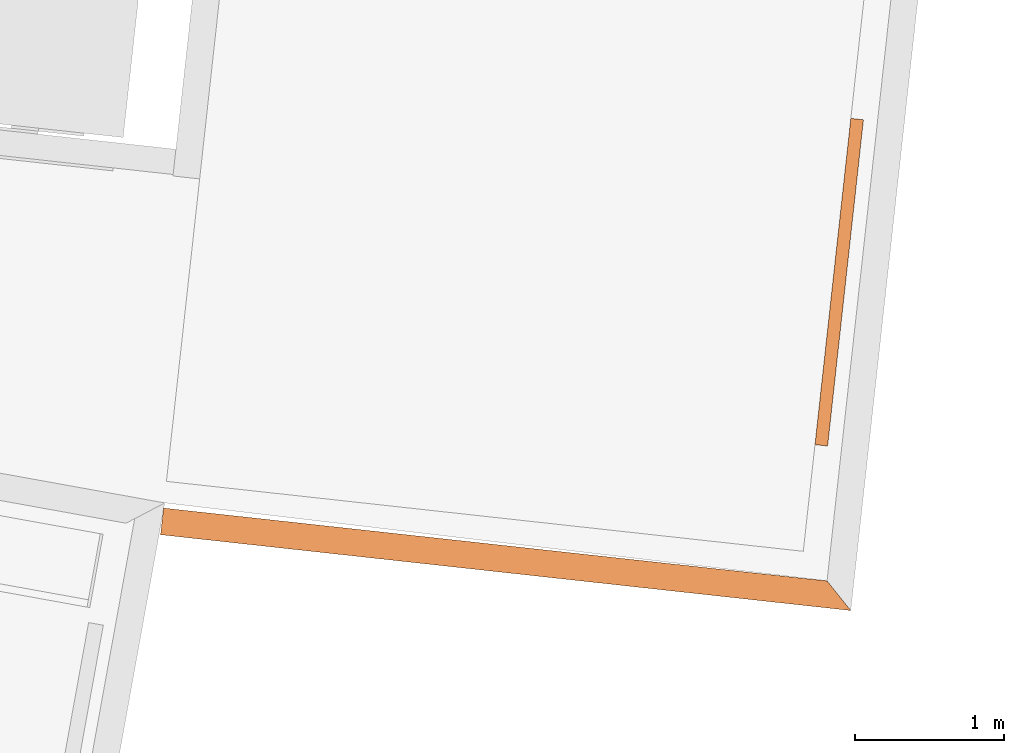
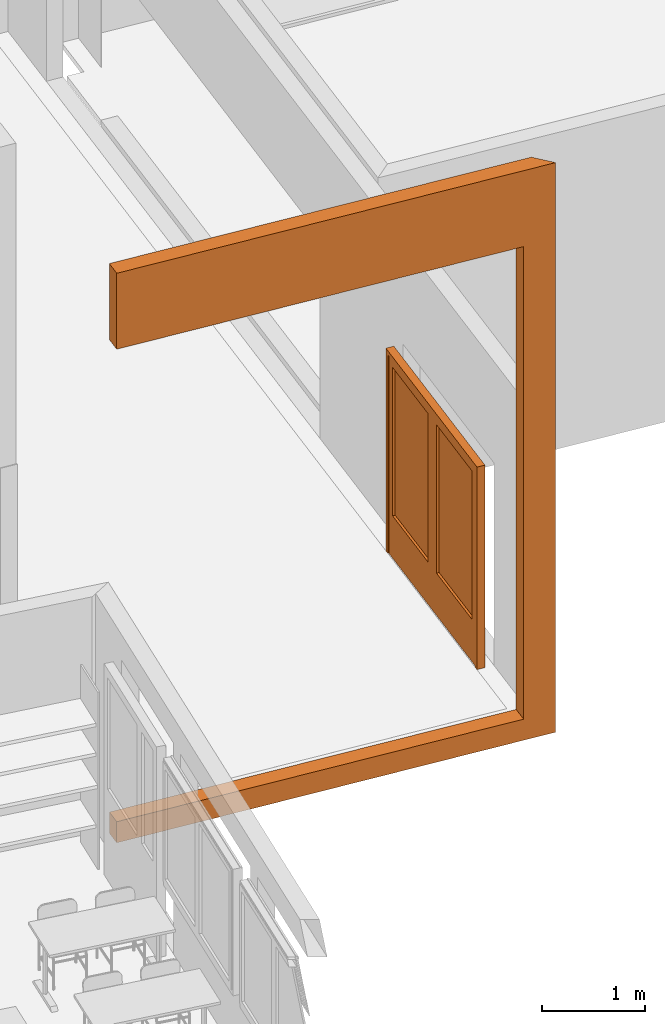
# One storey, part 68 of 79: 2 proxies.
"""IFC2X3 building model written with IfcOpenShell, lengths in metres."""

import ifcopenshell
import ifcopenshell.guid

model = None  # the IFC model being written
_history = None  # IfcOwnerHistory: only IFC2X3 demands one
_inside = {}  # id of a spatial element -> (the spatial element, [elements in it])
_under = {}  # id of a project, library or spatial element -> (it, [spatial elements below it])
_declared = {}  # id of a project -> (the project, [libraries it declares])
_typed = {}  # id of a type object -> (the type object, [elements of that type])
_made_of = {}  # id of a material, layer set ... -> (it, [elements and type objects made of it])


def new_model(schema):
    """Start an empty IFC model of exactly this schema.

    Asked for "IFC4X3", IfcOpenShell would pick the latest addendum, in which some entities
    have other attributes; the version numbers below select the first issue.
    IFC2X3 requires an IfcOwnerHistory on every rooted entity: one is made here for all.
    """
    global model, _history
    if schema == "IFC4X3":
        model = ifcopenshell.file(schema_version=(4, 3, 0, 0))
    else:
        model = ifcopenshell.file(schema=schema)
    _inside.clear()
    _under.clear()
    _declared.clear()
    _typed.clear()
    _made_of.clear()
    _history = None
    if model.schema == "IFC2X3":
        org = make("IfcOrganization", Name="unknown")
        user = make(
            "IfcPersonAndOrganization",
            ThePerson=make("IfcPerson", FamilyName="unknown"),
            TheOrganization=org,
        )
        app = make(
            "IfcApplication",
            ApplicationDeveloper=org,
            Version="unknown",
            ApplicationFullName="unknown",
            ApplicationIdentifier="unknown",
        )
        _history = make(
            "IfcOwnerHistory",
            OwningUser=user,
            OwningApplication=app,
            ChangeAction="ADDED",
            CreationDate=0,
        )
    return model


def make(cls, **values):
    """One entity of the class cls with the attributes given. An attribute that is None is left unset."""
    return model.create_entity(
        cls, **{name: value for name, value in values.items() if value is not None}
    )


def entity(cls, *values):
    """Any entity or typed value of the class cls, its attributes in the order of the schema. None: left unset."""
    e = model.create_entity(cls)
    for i, value in enumerate(values):
        if value is not None:
            e[i] = value
    return e


def rooted(cls, **values):
    """An entity with a GlobalId (a new one), such as an element, a storey or a relation."""
    return make(cls, GlobalId=ifcopenshell.guid.new(), OwnerHistory=_history, **values)


def si_unit(unit_type, name, prefix=None):
    """IfcSIUnit, for example si_unit("LENGTHUNIT", "METRE", prefix="MILLI")."""
    return make("IfcSIUnit", UnitType=unit_type, Prefix=prefix, Name=name)


def converted_unit(unit_type, name, factor, base, dimensions=None, offset=None):
    """IfcConversionBasedUnit, such as the inch: factor (a typed value) times the base unit."""
    return make(
        "IfcConversionBasedUnit"
        if offset is None
        else "IfcConversionBasedUnitWithOffset",
        ConversionOffset=offset,
        Dimensions=None
        if dimensions is None
        else entity("IfcDimensionalExponents", *dimensions),
        UnitType=unit_type,
        Name=name,
        ConversionFactor=make(
            "IfcMeasureWithUnit", ValueComponent=factor, UnitComponent=base
        ),
    )


def derived_unit(unit_type, elements):
    """IfcDerivedUnit: a product of units, each with its exponent."""
    return make(
        "IfcDerivedUnit",
        Elements=[
            make("IfcDerivedUnitElement", Unit=unit, Exponent=power)
            for unit, power in elements
        ],
        UnitType=unit_type,
    )


def money_unit(currency):
    """IfcMonetaryUnit."""
    return make("IfcMonetaryUnit", Currency=currency)


def assignment(units):
    """IfcUnitAssignment: the units of a project."""
    return None if units is None else make("IfcUnitAssignment", Units=units)


def point(xyz):
    """IfcCartesianPoint."""
    return None if xyz is None else make("IfcCartesianPoint", Coordinates=xyz)


def direction(xyz):
    """IfcDirection."""
    return None if xyz is None else make("IfcDirection", DirectionRatios=xyz)


def frame(location, z_axis=None, x_axis=None):
    """IfcAxis2Placement3D, a coordinate frame: its origin and axes. An axis left out is left unset."""
    return make(
        "IfcAxis2Placement3D",
        Location=point(location),
        Axis=direction(z_axis),
        RefDirection=direction(x_axis),
    )


def origin_with_axes():
    """The frame at (0, 0, 0) with the z axis (0, 0, 1) and the x axis (1, 0, 0) written out."""
    return frame((0.0, 0.0, 0.0), z_axis=(0.0, 0.0, 1.0), x_axis=(1.0, 0.0, 0.0))


def place(relative_to, where):
    """IfcLocalPlacement: puts the frame where relative to a parent placement (None: the world)."""
    return make(
        "IfcLocalPlacement", PlacementRelTo=relative_to, RelativePlacement=where
    )


def context(
    kind, dimensions, precision=None, world=None, true_north=None, identifier=None
):
    """IfcGeometricRepresentationContext, for example the 3D "Model" context."""
    return make(
        "IfcGeometricRepresentationContext",
        ContextIdentifier=identifier,
        ContextType=kind,
        CoordinateSpaceDimension=dimensions,
        Precision=precision,
        WorldCoordinateSystem=world,
        TrueNorth=true_north,
    )


def subcontext(parent, identifier, kind, view, scale=None):
    """IfcGeometricRepresentationSubContext, for example "Body" below "Model"."""
    return make(
        "IfcGeometricRepresentationSubContext",
        ContextIdentifier=identifier,
        ContextType=kind,
        ParentContext=parent,
        TargetScale=scale,
        TargetView=view,
    )


def project(units=None, contexts=None):
    """IfcProject with its units and contexts."""
    return rooted(
        "IfcProject",
        Name="project",
        RepresentationContexts=contexts,
        UnitsInContext=assignment(units),
    )


def spatial(cls, under=None, at=None, **own):
    """A site, building, storey or space (cls), placed at a placement, below another one or the project."""
    s = rooted(cls, ObjectPlacement=at, **own)
    if under is not None:
        _under.setdefault(under.id(), (under, []))[1].append(s)
    return s


def polyline(points):
    """IfcPolyline through the points."""
    return make("IfcPolyline", Points=[point(p) for p in points])


def outline(outer, holes=None, kind="AREA"):
    """IfcArbitraryClosedProfileDef: a profile drawn as a closed curve; with holes, ...WithVoids."""
    if holes is None:
        return make("IfcArbitraryClosedProfileDef", ProfileType=kind, OuterCurve=outer)
    return make(
        "IfcArbitraryProfileDefWithVoids",
        ProfileType=kind,
        OuterCurve=outer,
        InnerCurves=holes,
    )


def extrude(swept, where, along, depth):
    """IfcExtrudedAreaSolid: the profile swept, set in the frame where, extruded along a direction by depth."""
    return make(
        "IfcExtrudedAreaSolid",
        SweptArea=swept,
        Position=where,
        ExtrudedDirection=direction(along),
        Depth=depth,
    )


def boolean(op, a, b):
    """IfcBooleanResult of two solids."""
    return make("IfcBooleanResult", Operator=op, FirstOperand=a, SecondOperand=b)


def faces_of(points, faces, orient=None, outer=None):
    """IfcFace entities. A face is a list of loops; a loop is a list of indices into points, from 0.

    orient and outer hold one flag for each loop. By default every Orientation is true, the
    first loop of a face is its IfcFaceOuterBound and the others are IfcFaceBound.
    """
    made = []
    for i, loops in enumerate(faces):
        bounds = []
        for j, loop in enumerate(loops):
            is_outer = j == 0 if outer is None else outer[i][j]
            bounds.append(
                make(
                    "IfcFaceOuterBound" if is_outer else "IfcFaceBound",
                    Bound=make("IfcPolyLoop", Polygon=[points[k] for k in loop]),
                    Orientation=True if orient is None else orient[i][j],
                )
            )
        made.append(make("IfcFace", Bounds=bounds))
    return made


def open_shell(faces, orient=None, outer=None):
    """The faces of one IfcOpenShell. surface_model builds it on its shared points."""
    return ("IfcOpenShell", faces, orient, outer)


def faceted_brep(points, faces, orient=None, outer=None, voids=None):
    """IfcFacetedBrep: a solid bounded by flat faces; with voids (closed shells), ...WithVoids."""
    shared = [point(p) for p in points]
    hull = make("IfcClosedShell", CfsFaces=faces_of(shared, faces, orient, outer))
    if voids is None:
        return make("IfcFacetedBrep", Outer=hull)
    return make(
        "IfcFacetedBrepWithVoids",
        Outer=hull,
        Voids=[
            make(cls, CfsFaces=faces_of(shared, fs, o, b)) for cls, fs, o, b in voids
        ],
    )


def surface_model(cls, points, shells):
    """IfcFaceBasedSurfaceModel or IfcShellBasedSurfaceModel (cls): surfaces that need not close."""
    shared = [point(p) for p in points]
    made = [make(c, CfsFaces=faces_of(shared, fs, o, b)) for c, fs, o, b in shells]
    if cls == "IfcFaceBasedSurfaceModel":
        return make(cls, FbsmFaces=made)
    return make(cls, SbsmBoundary=made)


def shape(context_of_items, identifier, shape_type, items):
    """IfcShapeRepresentation: the items that make up one representation, for example the "Body"."""
    return make(
        "IfcShapeRepresentation",
        ContextOfItems=context_of_items,
        RepresentationIdentifier=identifier,
        RepresentationType=shape_type,
        Items=items,
    )


def material(Name=None, Category=None):
    """IfcMaterial."""
    return make("IfcMaterial", Name=Name, Category=Category)


def made_of(thing, what):
    """Note that an element or type object is made of a material, layer set ...; save() writes the relation."""
    if what is not None:
        _made_of.setdefault(what.id(), (what, []))[1].append(thing)
    return thing


def type_object(cls, material=None, **own):
    """A type object (cls), such as IfcWallType, which elements share."""
    return made_of(rooted(cls, **own), material)


def element(
    cls,
    number,
    at=None,
    inside=None,
    cuts=None,
    type_object=None,
    material=None,
    context=None,
    identifier="Body",
    shape_type=None,
    held_by="IfcProductDefinitionShape",
    body=None,
    shapes=None,
    **own,
):
    """One element of the class cls, such as IfcWall. Its Tag is "e" and its number.

    at: its placement. inside: the storey or other place that contains it. cuts: it is an
    opening in that element (IfcRelVoidsElement). A single representation is given by context,
    identifier, shape_type and body (its items); several are given by shapes. held_by: the class
    of the entity that holds the representations. save() writes the other relations.
    """
    e = rooted(cls, Tag="e%d" % number, ObjectPlacement=at, **own)
    if body is not None:
        shapes = [shape(context, identifier, shape_type, body)]
    if shapes is not None:
        e.Representation = make(held_by, Representations=shapes)
    if inside is not None:
        _inside.setdefault(inside.id(), (inside, []))[1].append(e)
    if cuts is not None:
        rooted(
            "IfcRelVoidsElement", RelatingBuildingElement=cuts, RelatedOpeningElement=e
        )
    if type_object is not None:
        _typed.setdefault(type_object.id(), (type_object, []))[1].append(e)
    return made_of(e, material)


def aggregate(whole, parts):
    """IfcRelAggregates: a whole, such as a stair, and the parts it consists of."""
    return rooted("IfcRelAggregates", RelatingObject=whole, RelatedObjects=parts)


def save(model, path):
    """Write the relations noted so far, then the file.

    IfcRelAggregates (storeys below a building ...), IfcRelContainedInSpatialStructure (elements
    in a storey), IfcRelDefinesByType, IfcRelAssociatesMaterial and IfcRelDeclares: one each for
    every whole, place, type object, material and project.
    """
    for whole, parts in _under.values():
        aggregate(whole, parts)
    for where, things in _inside.values():
        rooted(
            "IfcRelContainedInSpatialStructure",
            RelatedElements=things,
            RelatingStructure=where,
        )
    for kind, things in _typed.values():
        rooted("IfcRelDefinesByType", RelatedObjects=things, RelatingType=kind)
    for what, things in _made_of.values():
        rooted("IfcRelAssociatesMaterial", RelatedObjects=things, RelatingMaterial=what)
    for by, libraries in _declared.values():
        rooted("IfcRelDeclares", RelatingContext=by, RelatedDefinitions=libraries)
    model.write(path)


model = new_model("IFC2X3")

# Units and contexts
model_context = context("Model", 3, precision=1e-05, world=origin_with_axes(), true_north=direction((0.0, 1.0)))
body_context = subcontext(model_context, "Body", "Model", "MODEL_VIEW")
ifc_project = project(units=[si_unit("LENGTHUNIT", "METRE"), si_unit("AREAUNIT", "SQUARE_METRE"), si_unit("VOLUMEUNIT", "CUBIC_METRE"), converted_unit("PLANEANGLEUNIT", "DEGREE", entity("IfcPlaneAngleMeasure", 0.0174532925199), si_unit("PLANEANGLEUNIT", "RADIAN"), dimensions=[0, 0, 0, 0, 0, 0, 0]), money_unit("CHF"), converted_unit("TIMEUNIT", "Year", entity("IfcTimeMeasure", 31556926.0), si_unit("TIMEUNIT", "SECOND"), dimensions=[0, 0, 1, 0, 0, 0, 0]), si_unit("MASSUNIT", "GRAM", prefix="KILO"), si_unit("THERMODYNAMICTEMPERATUREUNIT", "DEGREE_CELSIUS"), si_unit("LUMINOUSINTENSITYUNIT", "LUMEN"), si_unit("ENERGYUNIT", "JOULE", prefix="MEGA"), derived_unit("THERMALCONDUCTANCEUNIT", [(si_unit("POWERUNIT", "WATT"), 1), (si_unit("LENGTHUNIT", "METRE"), -1), (si_unit("THERMODYNAMICTEMPERATUREUNIT", "KELVIN"), -1)]), derived_unit("SPECIFICHEATCAPACITYUNIT", [(si_unit("ENERGYUNIT", "JOULE"), 1), (si_unit("MASSUNIT", "GRAM", prefix="KILO"), -1), (si_unit("THERMODYNAMICTEMPERATUREUNIT", "KELVIN"), -1)]), derived_unit("MASSDENSITYUNIT", [(si_unit("MASSUNIT", "GRAM", prefix="KILO"), 1), (si_unit("VOLUMEUNIT", "CUBIC_METRE"), -1)])], contexts=[model_context])

# Site, building, storey
site_placement = place(None, frame((0.0, 0.0, 0.0), z_axis=(0.0, 0.0, 1.0), x_axis=(-0.177771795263, -0.984071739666, 0.0)))
site = spatial("IfcSite", under=ifc_project, at=site_placement, Name="Site", CompositionType="ELEMENT")
building_placement = place(site_placement, origin_with_axes())
building = spatial("IfcBuilding", under=site, at=building_placement, Name="Bâtiment", CompositionType="ELEMENT")
storey_placement = place(building_placement, origin_with_axes())
storey = spatial("IfcBuildingStorey", under=building, at=storey_placement, Name="RDC", CompositionType="ELEMENT", Elevation=0.0)

# Proxies
ifc_material_1 = material(Name="_BA banché RAL9007")
building_element_proxy_type_1 = type_object("IfcBuildingElementProxyType", Name="_M ext 18 +18 360", PredefinedType="NOTDEFINED")
proxy_1_placement = place(storey_placement, frame((110.13965768, -148.107188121, -0.15), z_axis=(0.0, 0.0, 1.0), x_axis=(-0.0692640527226, 0.997598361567, 0.0)))
element("IfcBuildingElementProxy", 1, at=proxy_1_placement, inside=storey, type_object=building_element_proxy_type_1, material=ifc_material_1, Name="M ext hall-Sud", context=body_context, shape_type="CSG", body=[
    boolean("DIFFERENCE", extrude(outline(polyline([(0.0, 0.0), (4.65503647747, 0.0), (4.47503647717, 0.18), (0.0, 0.18), (0.0, 0.0)])), origin_with_axes(), (0.0, 0.0, 1.0), 6.75), faceted_brep([(4.31503647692, 0.0, 0.25), (4.31503647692, 0.0, 5.85), (0.0, 0.0, 5.85), (0.0, 0.0, 0.25), (4.31503647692, 0.18, 0.25), (4.31503647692, 0.18, 5.85), (0.0, 0.18, 5.85), (0.0, 0.18, 0.25)], [[[0, 1, 2, 3]], [[1, 0, 4, 5]], [[6, 2, 1, 5]], [[7, 3, 2, 6]], [[0, 3, 7, 4]], [[4, 7, 6, 5]]])),
])
ifc_material_2 = material(Name="Matériau de construction IFC")
building_element_proxy_type_2 = type_object("IfcBuildingElementProxyType", Name="Porte double 21", PredefinedType="NOTDEFINED")
proxy_2_placement = place(storey_placement, frame((106.545637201, -143.690480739, 0.0), z_axis=(0.0, 0.0, 1.0), x_axis=(0.997598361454, 0.0692640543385, 0.0)))
element("IfcBuildingElementProxy", 2, at=proxy_2_placement, inside=storey, type_object=building_element_proxy_type_2, material=ifc_material_2, Name="Porte hall", context=body_context, shape_type="SurfaceModel", body=[
    faceted_brep([(0.05, -0.35, 0.0), (0.05, -0.35, 2.35), (0.05, -0.36, 2.35), (0.05, -0.36, 0.0), (0.04, -0.35, 2.35), (0.04, -0.35, 0.0), (0.04, -0.275, 2.35), (0.0, -0.275, 2.35), (0.0, -0.36, 2.35), (0.0, -0.36, 0.0), (0.0, -0.275, 0.0), (0.04, -0.275, 0.0)], [[[0, 1, 2, 3]], [[4, 1, 0, 5]], [[4, 6, 7, 8, 2, 1]], [[3, 2, 8, 9]], [[5, 0, 3, 9, 10, 11]], [[6, 4, 5, 11]], [[6, 11, 10, 7]], [[10, 9, 8, 7]]]),
    faceted_brep([(2.16, -0.35, 2.35), (2.15, -0.35, 2.35), (2.15, -0.36, 2.35), (2.2, -0.36, 2.35), (2.2, -0.275, 2.35), (2.16, -0.275, 2.35), (2.16, -0.35, 0.0), (2.15, -0.35, 0.0), (2.15, -0.36, 0.0), (2.2, -0.36, 0.0), (2.2, -0.275, 0.0), (2.16, -0.275, 0.0)], [[[0, 1, 2, 3, 4, 5]], [[1, 0, 6, 7]], [[1, 7, 8, 2]], [[3, 2, 8, 9]], [[4, 3, 9, 10]], [[11, 5, 4, 10]], [[0, 5, 11, 6]], [[6, 11, 10, 9, 8, 7]]]),
    faceted_brep([(0.04, -0.275, 2.36), (0.04, -0.275, 2.35), (0.0, -0.275, 2.35), (0.0, -0.275, 2.4), (2.2, -0.275, 2.4), (2.2, -0.275, 2.35), (2.16, -0.275, 2.35), (2.16, -0.275, 2.36), (0.04, -0.35, 2.36), (0.04, -0.35, 2.35), (0.05, -0.35, 2.35), (0.05, -0.36, 2.35), (0.0, -0.36, 2.35), (0.0, -0.36, 2.4), (2.2, -0.36, 2.4), (2.2, -0.36, 2.35), (2.16, -0.35, 2.35), (2.15, -0.36, 2.35), (2.15, -0.35, 2.35), (2.16, -0.35, 2.36)], [[[0, 1, 2, 3, 4, 5, 6, 7]], [[1, 0, 8, 9]], [[9, 10, 11, 12, 2, 1]], [[2, 12, 13, 3]], [[3, 13, 14, 4]], [[4, 14, 15, 5]], [[16, 6, 5, 15, 17, 18]], [[7, 6, 16, 19]], [[0, 7, 19, 8]], [[16, 18, 10, 9, 8, 19]], [[10, 18, 17, 11]], [[17, 15, 14, 13, 12, 11]]]),
    faceted_brep([(2.16, -0.275, 0.5), (2.16, -0.35, 0.5), (2.06, -0.35, 0.5), (2.06, -0.275, 0.5), (2.16, -0.275, 2.26), (2.16, -0.35, 2.26), (2.06, -0.35, 2.26), (2.06, -0.275, 2.26)], [[[0, 1, 2, 3]], [[4, 5, 1, 0]], [[1, 5, 6, 2]], [[3, 2, 6, 7]], [[0, 3, 7, 4]], [[7, 6, 5, 4]]]),
    faceted_brep([(1.1, -0.275, 0.5), (1.1, -0.35, 0.5), (1.1, -0.35, 2.26), (1.1, -0.275, 2.26), (1.2, -0.275, 0.5), (1.2, -0.35, 0.5), (1.2, -0.35, 2.26), (1.2, -0.275, 2.26)], [[[0, 1, 2, 3]], [[4, 5, 1, 0]], [[1, 5, 6, 2]], [[3, 2, 6, 7]], [[0, 3, 7, 4]], [[7, 6, 5, 4]]]),
    faceted_brep([(2.16, -0.275, 0.0), (2.16, -0.35, 0.0), (1.1, -0.35, 0.0), (1.1, -0.275, 0.0), (2.16, -0.275, 0.5), (2.16, -0.35, 0.5), (2.06, -0.35, 0.5), (1.2, -0.35, 0.5), (1.1, -0.35, 0.5), (1.1, -0.275, 0.5), (1.2, -0.275, 0.5), (2.06, -0.275, 0.5)], [[[0, 1, 2, 3]], [[4, 5, 1, 0]], [[1, 5, 6, 7, 8, 2]], [[3, 2, 8, 9]], [[0, 3, 9, 10, 11, 4]], [[11, 6, 5, 4]], [[10, 7, 6, 11]], [[9, 8, 7, 10]]]),
    faceted_brep([(2.16, -0.275, 2.36), (2.16, -0.35, 2.36), (2.16, -0.35, 2.26), (2.16, -0.275, 2.26), (1.1, -0.275, 2.36), (1.1, -0.35, 2.36), (1.1, -0.35, 2.26), (1.2, -0.35, 2.26), (2.06, -0.35, 2.26), (2.06, -0.275, 2.26), (1.2, -0.275, 2.26), (1.1, -0.275, 2.26)], [[[0, 1, 2, 3]], [[4, 5, 1, 0]], [[1, 5, 6, 7, 8, 2]], [[3, 2, 8, 9]], [[0, 3, 9, 10, 11, 4]], [[11, 6, 5, 4]], [[10, 7, 6, 11]], [[9, 8, 7, 10]]]),
    surface_model("IfcShellBasedSurfaceModel", [(2.06, -0.3025, 0.5), (1.2, -0.3025, 0.5), (1.2, -0.3025, 2.26), (2.06, -0.3025, 2.26)], [open_shell([[[0, 1, 2, 3]]])]),
    surface_model("IfcShellBasedSurfaceModel", [(2.06, -0.3225, 0.5), (2.06, -0.3225, 2.26), (1.2, -0.3225, 2.26), (1.2, -0.3225, 0.5)], [open_shell([[[0, 1, 2, 3]]])]),
    faceted_brep([(0.04, -0.275, 0.5), (0.14, -0.275, 0.5), (0.14, -0.35, 0.5), (0.04, -0.35, 0.5), (0.04, -0.275, 2.26), (0.14, -0.275, 2.26), (0.14, -0.35, 2.26), (0.04, -0.35, 2.26)], [[[0, 1, 2, 3]], [[0, 4, 5, 1]], [[1, 5, 6, 2]], [[3, 2, 6, 7]], [[4, 0, 3, 7]], [[5, 4, 7, 6]]]),
    faceted_brep([(1.1, -0.275, 0.5), (1.1, -0.275, 2.26), (1.1, -0.35, 2.26), (1.1, -0.35, 0.5), (1.0, -0.275, 0.5), (1.0, -0.275, 2.26), (1.0, -0.35, 2.26), (1.0, -0.35, 0.5)], [[[0, 1, 2, 3]], [[0, 4, 5, 1]], [[1, 5, 6, 2]], [[3, 2, 6, 7]], [[4, 0, 3, 7]], [[5, 4, 7, 6]]]),
    faceted_brep([(0.04, -0.275, 0.0), (1.1, -0.275, 0.0), (1.1, -0.35, 0.0), (0.04, -0.35, 0.0), (0.04, -0.275, 0.5), (0.14, -0.275, 0.5), (1.0, -0.275, 0.5), (1.1, -0.275, 0.5), (1.1, -0.35, 0.5), (1.0, -0.35, 0.5), (0.14, -0.35, 0.5), (0.04, -0.35, 0.5)], [[[0, 1, 2, 3]], [[0, 4, 5, 6, 7, 1]], [[1, 7, 8, 2]], [[3, 2, 8, 9, 10, 11]], [[4, 0, 3, 11]], [[5, 4, 11, 10]], [[6, 5, 10, 9]], [[7, 6, 9, 8]]]),
    faceted_brep([(0.04, -0.275, 2.36), (0.04, -0.275, 2.26), (0.04, -0.35, 2.26), (0.04, -0.35, 2.36), (1.1, -0.275, 2.36), (1.1, -0.275, 2.26), (1.0, -0.275, 2.26), (0.14, -0.275, 2.26), (0.14, -0.35, 2.26), (1.0, -0.35, 2.26), (1.1, -0.35, 2.26), (1.1, -0.35, 2.36)], [[[0, 1, 2, 3]], [[0, 4, 5, 6, 7, 1]], [[1, 7, 8, 2]], [[3, 2, 8, 9, 10, 11]], [[4, 0, 3, 11]], [[5, 4, 11, 10]], [[6, 5, 10, 9]], [[7, 6, 9, 8]]]),
    surface_model("IfcShellBasedSurfaceModel", [(0.14, -0.3025, 0.5), (0.14, -0.3025, 2.26), (1.0, -0.3025, 2.26), (1.0, -0.3025, 0.5)], [open_shell([[[0, 1, 2, 3]]])]),
    surface_model("IfcShellBasedSurfaceModel", [(0.14, -0.3225, 0.5), (1.0, -0.3225, 0.5), (1.0, -0.3225, 2.26), (0.14, -0.3225, 2.26)], [open_shell([[[0, 1, 2, 3]]])]),
])

save(model, "model.ifc")
